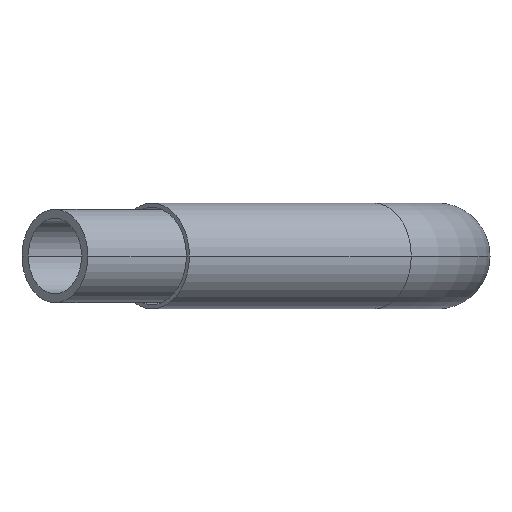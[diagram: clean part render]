
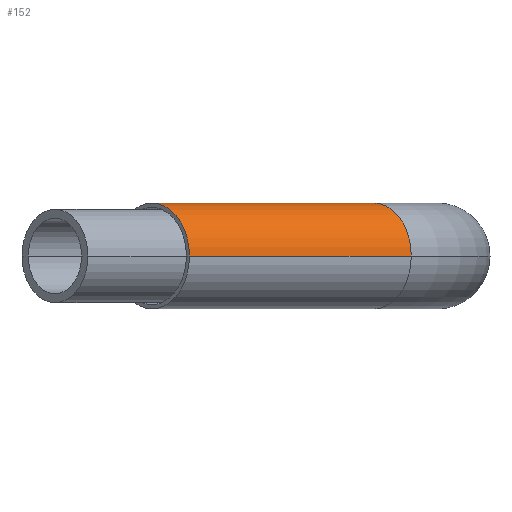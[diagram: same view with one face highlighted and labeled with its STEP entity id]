
A CAD part, left-side view. The second image highlights one B-rep face of the part: STEP entity #152.
In plain terms, the highlighted cylindrical face has radius 62.5 mm (diameter 125 mm), a partial arc.
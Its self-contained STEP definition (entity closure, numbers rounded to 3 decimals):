
#3 = FACE_OUTER_BOUND ( 'NONE', #91, .T. ) ;
#69 = ORIENTED_EDGE ( 'NONE', *, *, #556, .F. ) ;
#71 = ORIENTED_EDGE ( 'NONE', *, *, #553, .T. ) ;
#76 = ORIENTED_EDGE ( 'NONE', *, *, #573, .T. ) ;
#84 = ORIENTED_EDGE ( 'NONE', *, *, #564, .F. ) ;
#91 = EDGE_LOOP ( 'NONE', ( #84, #76, #71, #69 ) ) ;
#152 = ADVANCED_FACE ( 'NONE', ( #3 ), #257, .T. ) ;
#188 = AXIS2_PLACEMENT_3D ( 'NONE', #252, #250, #248 ) ;
#248 = DIRECTION ( 'NONE',  ( -0.707, -0.707, 0. ) ) ;
#250 = DIRECTION ( 'NONE',  ( -0.707, 0.707, 0. ) ) ;
#252 = CARTESIAN_POINT ( 'NONE',  ( -37.793, -40.023, -9.314 ) ) ;
#257 = CYLINDRICAL_SURFACE ( 'NONE', #188, 62.5 ) ;
#268 = VECTOR ( 'NONE', #762, 1000. ) ;
#279 = CIRCLE ( 'NONE', #283, 62.5 ) ;
#283 = AXIS2_PLACEMENT_3D ( 'NONE', #786, #787, #788 ) ;
#298 = VECTOR ( 'NONE', #816, 1000. ) ;
#352 = CIRCLE ( 'NONE', #358, 62.5 ) ;
#358 = AXIS2_PLACEMENT_3D ( 'NONE', #754, #755, #756 ) ;
#460 = VERTEX_POINT ( 'NONE', #656 ) ;
#464 = VERTEX_POINT ( 'NONE', #659 ) ;
#470 = VERTEX_POINT ( 'NONE', #663 ) ;
#488 = VERTEX_POINT ( 'NONE', #681 ) ;
#553 = EDGE_CURVE ( 'NONE', #470, #460, #352, .T. ) ;
#556 = EDGE_CURVE ( 'NONE', #464, #460, #758, .T. ) ;
#564 = EDGE_CURVE ( 'NONE', #488, #464, #279, .T. ) ;
#573 = EDGE_CURVE ( 'NONE', #488, #470, #807, .T. ) ;
#656 = CARTESIAN_POINT ( 'NONE',  ( -343.857, 177.653, -9.314 ) ) ;
#659 = CARTESIAN_POINT ( 'NONE',  ( -81.987, -84.217, -9.314 ) ) ;
#663 = CARTESIAN_POINT ( 'NONE',  ( -255.468, 266.042, -9.314 ) ) ;
#681 = CARTESIAN_POINT ( 'NONE',  ( 6.401, 4.172, -9.314 ) ) ;
#746 = CARTESIAN_POINT ( 'NONE',  ( -81.987, -84.217, -9.314 ) ) ;
#754 = CARTESIAN_POINT ( 'NONE',  ( -299.663, 221.847, -9.314 ) ) ;
#755 = DIRECTION ( 'NONE',  ( 0.707, -0.707, 0. ) ) ;
#756 = DIRECTION ( 'NONE',  ( 0., 0., -1. ) ) ;
#758 = LINE ( 'NONE', #746, #268 ) ;
#762 = DIRECTION ( 'NONE',  ( -0.707, 0.707, 0. ) ) ;
#786 = CARTESIAN_POINT ( 'NONE',  ( -37.793, -40.023, -9.314 ) ) ;
#787 = DIRECTION ( 'NONE',  ( 0.707, -0.707, 0. ) ) ;
#788 = DIRECTION ( 'NONE',  ( 0., 0., -1. ) ) ;
#807 = LINE ( 'NONE', #808, #298 ) ;
#808 = CARTESIAN_POINT ( 'NONE',  ( 6.401, 4.172, -9.314 ) ) ;
#816 = DIRECTION ( 'NONE',  ( -0.707, 0.707, 0. ) ) ;
